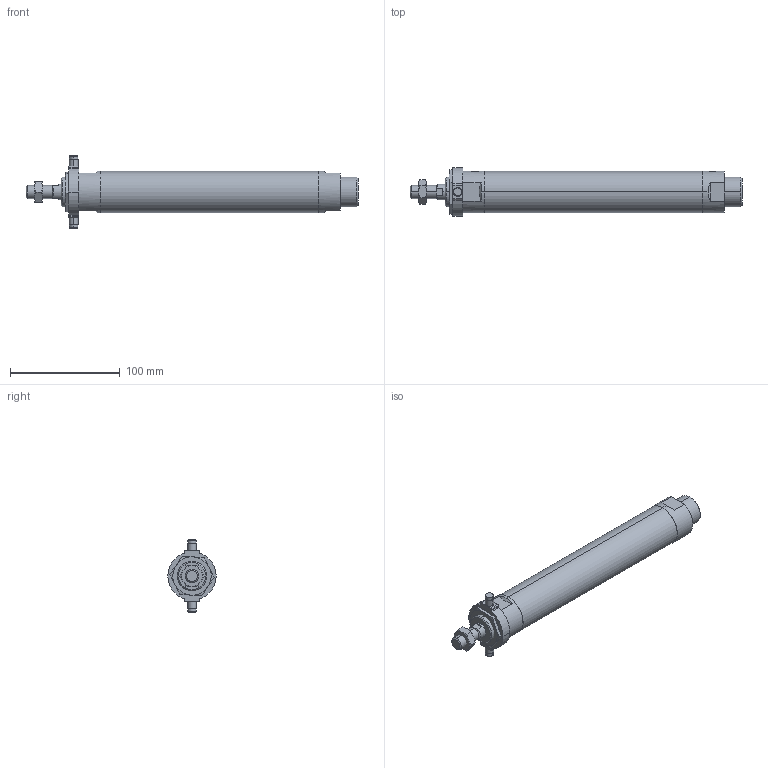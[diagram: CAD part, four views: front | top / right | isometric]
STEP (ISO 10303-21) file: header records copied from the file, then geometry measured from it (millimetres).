
FILE_DESCRIPTION (( 'STEP AP203' ), '1' );
FILE_NAME ('J#2-32-150-T.STEP', '2016-03-08T07:42:05', ( '' ), ( '' ), 'SwSTEP 2.0', 'SolidWorks 2014', '' );
FILE_SCHEMA (( 'CONFIG_CONTROL_DESIGN' ));
Length unit declared in the file: millimetre
Products named in the file (5): J#2-32-150-T; J#2-32-150; J#2-32-T
Assembly tree (4 placements, depth 2):
  J#2-32-150-T
    J#2-32-150
    (unnamed)
    (unnamed)
    J#2-32-T
Bounding box: 303 x 44 x 66 mm (x, y, z)
Volume: 297418.8 mm3; surface area: 42909.4 mm2
Topology: 4 solids, 4 shells, 133 faces, 303 edges, 183 vertices
Faces by surface type: cylinder 43, plane 43, torus 24, cone 23
Entity records: 4649 total; most frequent: CARTESIAN_POINT 1181, DIRECTION 640, ORIENTED_EDGE 598, EDGE_CURVE 299, AXIS2_PLACEMENT_3D 264, VERTEX_POINT 183, EDGE_LOOP 148, FACE_OUTER_BOUND 133
